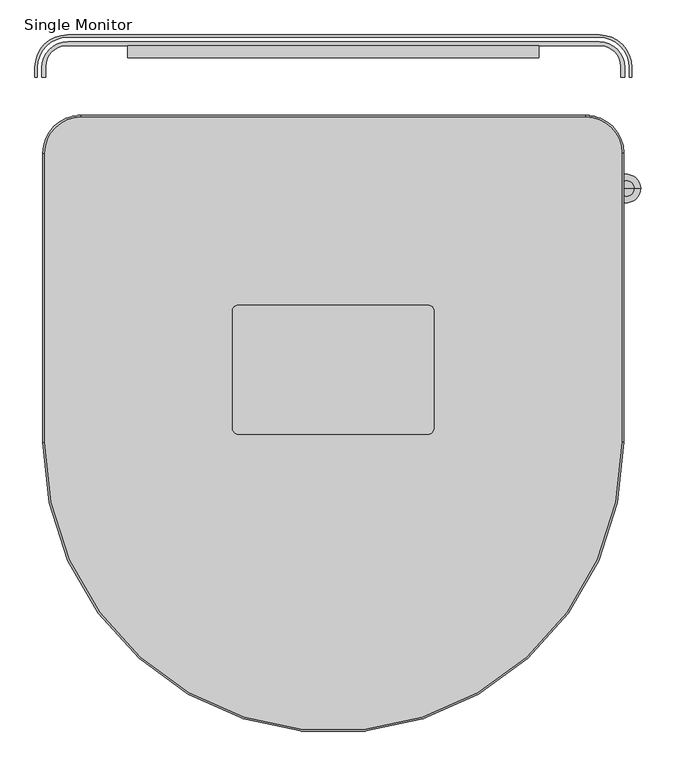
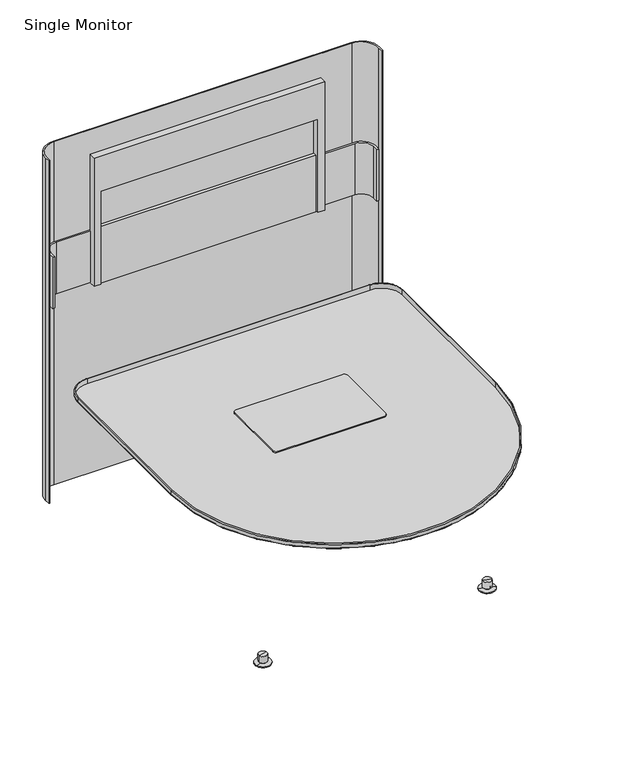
"""IFC4 building model written with IfcOpenShell, lengths in millimetres: furniture geometry, Steelcase - Media Scape - Table - Lounge Height - Small D Shape with Attached Totem : Single Monitor."""

from ifc_helpers import new_model, si_unit, point, frame, frame_2d, origin, place, context, project, spatial, polyline, circle_curve, ellipse_curve, trimmed, segment, composite_curve, outline, extrude, faceted_brep, source, transform, mapped, element, save
from ifc_brep_helpers import plane_surface, cylinder_surface, revolved_surface, spline_surface, advanced_brep


def single_monitor_e5c85c67(model_context):
    return source(origin(), model_context, "Body", "SolidModel", [
        advanced_brep(
        [(267.7091931, -257.5052223, 569.9023504), (347.0842173, -178.1301981, 569.9023504), (347.0842173, -181.3052223, 566.7273262), (270.8842173, -257.5052223, 566.7273262), (267.7091931, -257.5052223, 583.6183158), (347.0842173, -178.1301981, 583.6183158), (270.8842173, -257.5052223, 586.79334), (347.0842173, -181.3052223, 586.79334), (270.8842173, -863.6833531, 566.7273262), (267.7091931, -863.6833531, 569.9023504), (267.7091931, -863.6833531, 583.6183158), (270.8842173, -863.6833531, 586.79334), (1486.9090478, -863.6833531, 569.9023504), (1483.7340235, -863.6833531, 566.7273262), (1486.9090478, -863.6833531, 583.6183158), (1483.7340235, -863.6833531, 586.79334), (1483.7340235, -257.5052223, 566.7273262), (1486.9090478, -257.5052223, 569.9023504), (1486.9090478, -257.5052223, 583.6183158), (1483.7340235, -257.5052223, 586.79334), (1407.5340235, -178.1301981, 569.9023504), (1407.5340235, -181.3052223, 566.7273262), (1407.5340235, -178.1301981, 583.6183158), (1407.5340235, -181.3052223, 586.79334)],
        [
            (0, 1, circle_curve(frame((347.0842173, -257.5052223, 569.9023504), z_axis=(0.0, 0.0, -1.0), x_axis=(0.0, 1.0, 0.0)), 79.3750242)),
            (1, 2, circle_curve(frame((347.0842173, -181.3052223, 569.9023504), z_axis=(-1.0, 0.0, 0.0), x_axis=(0.0, -1.0, 0.0)), 3.1750242)),
            (2, 3, circle_curve(frame((347.0842173, -257.5052223, 566.7273262), z_axis=(0.0, 0.0, 1.0), x_axis=(0.0, 1.0, 0.0)), 76.2)),
            (3, 0, circle_curve(frame((270.8842173, -257.5052223, 569.9023504), z_axis=(0.0, 1.0, 0.0), x_axis=(1.0, 0.0, 0.0)), 3.1750242)),
            (4, 5, circle_curve(frame((347.0842173, -257.5052223, 583.6183158), z_axis=(0.0, 0.0, -1.0), x_axis=(0.0, 1.0, 0.0)), 79.3750242)),
            (5, 1),
            (0, 4),
            (6, 7, circle_curve(frame((347.0842173, -257.5052223, 586.79334), z_axis=(0.0, 0.0, -1.0), x_axis=(0.0, 1.0, 0.0)), 76.2)),
            (7, 5, circle_curve(frame((347.0842173, -181.3052223, 583.6183158), z_axis=(-1.0, 0.0, 0.0), x_axis=(0.0, -1.0, 0.0)), 3.1750242)),
            (4, 6, circle_curve(frame((270.8842173, -257.5052223, 583.6183158), z_axis=(0.0, 1.0, 0.0), x_axis=(1.0, 0.0, 0.0)), 3.1750242)),
            (2, 7),
            (6, 3),
            (3, 8),
            (8, 9, circle_curve(frame((270.8842173, -863.6833531, 569.9023504), z_axis=(0.0, 1.0, 0.0), x_axis=(1.0, 0.0, 0.0)), 3.1750242)),
            (9, 0),
            (9, 10),
            (10, 4),
            (10, 11, circle_curve(frame((270.8842173, -863.6833531, 583.6183158), z_axis=(0.0, 1.0, 0.0), x_axis=(1.0, 0.0, 0.0)), 3.1750242)),
            (11, 6),
            (11, 8),
            (12, 9, circle_curve(frame((877.3091204, -863.6833531, 569.9023504), z_axis=(0.0, 0.0, -1.0), x_axis=(-1.0, 0.0, 0.0)), 609.5999273)),
            (8, 13, circle_curve(frame((877.3091204, -863.6833531, 566.7273262), z_axis=(0.0, 0.0, 1.0), x_axis=(-1.0, 0.0, 0.0)), 606.4249031)),
            (13, 12, circle_curve(frame((1483.7340235, -863.6833531, 569.9023504), z_axis=(0.0, -1.0, 0.0), x_axis=(-1.0, 0.0, 0.0)), 3.1750242)),
            (14, 10, circle_curve(frame((877.3091204, -863.6833531, 583.6183158), z_axis=(0.0, 0.0, -1.0), x_axis=(-1.0, 0.0, 0.0)), 609.5999273)),
            (12, 14),
            (15, 11, circle_curve(frame((877.3091204, -863.6833531, 586.79334), z_axis=(0.0, 0.0, -1.0), x_axis=(-1.0, 0.0, 0.0)), 606.4249031)),
            (14, 15, circle_curve(frame((1483.7340235, -863.6833531, 583.6183158), z_axis=(0.0, -1.0, 0.0), x_axis=(-1.0, 0.0, 0.0)), 3.1750242)),
            (15, 13),
            (13, 16),
            (16, 17, circle_curve(frame((1483.7340235, -257.5052223, 569.9023504), z_axis=(0.0, -1.0, 0.0), x_axis=(-1.0, 0.0, 0.0)), 3.1750242)),
            (17, 12),
            (17, 18),
            (18, 14),
            (18, 19, circle_curve(frame((1483.7340235, -257.5052223, 583.6183158), z_axis=(0.0, -1.0, 0.0), x_axis=(-1.0, 0.0, 0.0)), 3.1750242)),
            (19, 15),
            (19, 16),
            (20, 17, circle_curve(frame((1407.5340235, -257.5052223, 569.9023504), z_axis=(0.0, 0.0, -1.0), x_axis=(1.0, 0.0, 0.0)), 79.3750242)),
            (16, 21, circle_curve(frame((1407.5340235, -257.5052223, 566.7273262), z_axis=(0.0, 0.0, 1.0), x_axis=(1.0, 0.0, 0.0)), 76.2)),
            (21, 20, circle_curve(frame((1407.5340235, -181.3052223, 569.9023504), z_axis=(1.0, 0.0, 0.0), x_axis=(0.0, -1.0, 0.0)), 3.1750242)),
            (22, 18, circle_curve(frame((1407.5340235, -257.5052223, 583.6183158), z_axis=(0.0, 0.0, -1.0), x_axis=(1.0, 0.0, 0.0)), 79.3750242)),
            (20, 22),
            (23, 19, circle_curve(frame((1407.5340235, -257.5052223, 586.79334), z_axis=(0.0, 0.0, -1.0), x_axis=(1.0, 0.0, 0.0)), 76.2)),
            (22, 23, circle_curve(frame((1407.5340235, -181.3052223, 583.6183158), z_axis=(1.0, 0.0, 0.0), x_axis=(0.0, -1.0, 0.0)), 3.1750242)),
            (23, 21),
            (21, 2),
            (1, 20),
            (5, 22),
            (7, 23),
        ],
        [
            revolved_surface(trimmed(ellipse_curve(frame((347.0842173, -181.3052223, 569.9023504), z_axis=(1.0, 0.0, 0.0), x_axis=(0.0, -1.0, 0.0)), 3.1750242, 3.1750242), [point((347.0842173, -181.3052223, 566.7273262))], [point((347.0842173, -178.1301981, 569.9023504))], True, "CARTESIAN"), (347.0842173, -257.5052223, 0.0), (0.0, 0.0, 1.0)),
            cylinder_surface(frame((347.0842173, -257.5052223, 0.0), z_axis=(0.0, 0.0, 1.0), x_axis=(0.0, 1.0, 0.0)), 79.3750242),
            revolved_surface(trimmed(ellipse_curve(frame((347.0842173, -181.3052223, 583.6183158), z_axis=(1.0, 0.0, 0.0), x_axis=(0.0, -1.0, 0.0)), 3.1750242, 3.1750242), [point((347.0842173, -178.1301981, 583.6183158))], [point((347.0842173, -181.3052223, 586.79334))], True, "CARTESIAN"), (347.0842173, -257.5052223, 0.0), (0.0, 0.0, 1.0)),
            revolved_surface(polyline([(347.0842173, -181.30522230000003, 586.79334), (347.0842173, -181.30522230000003, 566.7273262)]), (347.0842173, -257.5052223, 0.0), (0.0, 0.0, 1.0)),
            cylinder_surface(frame((270.8842173, -257.5052223, 569.9023504), z_axis=(0.0, 1.0, 0.0), x_axis=(1.0, 0.0, 0.0)), 3.1750242),
            plane_surface(frame((267.7091931, -257.5052223, 569.9023504), z_axis=(-1.0, 0.0, 0.0), x_axis=(0.0, -1.0, 0.0))),
            cylinder_surface(frame((270.8842173, -257.5052223, 583.6183158), z_axis=(0.0, 1.0, 0.0), x_axis=(1.0, 0.0, 0.0)), 3.1750242),
            plane_surface(frame((270.8842173, -257.5052223, 586.79334), z_axis=(1.0, 0.0, 0.0), x_axis=(0.0, -1.0, 0.0))),
            revolved_surface(trimmed(ellipse_curve(frame((270.8842173, -863.6833531, 569.9023504), z_axis=(0.0, 1.0, 0.0), x_axis=(1.0, 0.0, 0.0)), 3.1750242, 3.1750242), [point((270.8842173, -863.6833531, 566.7273262))], [point((267.7091931, -863.6833531, 569.9023504))], True, "CARTESIAN"), (877.3091204, -863.6833531, 0.0), (0.0, 0.0, 1.0)),
            cylinder_surface(frame((877.3091204, -863.6833531, 0.0), z_axis=(0.0, 0.0, 1.0), x_axis=(-1.0, 0.0, 0.0)), 609.5999273),
            revolved_surface(trimmed(ellipse_curve(frame((270.8842173, -863.6833531, 583.6183158), z_axis=(0.0, 1.0, 0.0), x_axis=(1.0, 0.0, 0.0)), 3.1750242, 3.1750242), [point((267.7091931, -863.6833531, 583.6183158))], [point((270.8842173, -863.6833531, 586.79334))], True, "CARTESIAN"), (877.3091204, -863.6833531, 0.0), (0.0, 0.0, 1.0)),
            revolved_surface(polyline([(270.88421729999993, -863.6833531, 586.79334), (270.88421729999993, -863.6833531, 566.7273262)]), (877.3091204, -863.6833531, 0.0), (0.0, 0.0, 1.0)),
            cylinder_surface(frame((1483.7340235, -863.6833531, 569.9023504), z_axis=(0.0, -1.0, 0.0), x_axis=(-1.0, 0.0, 0.0)), 3.1750242),
            plane_surface(frame((1486.9090478, -863.6833531, 569.9023504), z_axis=(1.0, 0.0, 0.0), x_axis=(0.0, 1.0, 0.0))),
            cylinder_surface(frame((1483.7340235, -863.6833531, 583.6183158), z_axis=(0.0, -1.0, 0.0), x_axis=(-1.0, 0.0, 0.0)), 3.1750242),
            plane_surface(frame((1483.7340235, -863.6833531, 586.79334), z_axis=(-1.0, 0.0, 0.0), x_axis=(0.0, 1.0, 0.0))),
            revolved_surface(trimmed(ellipse_curve(frame((1483.7340235, -257.5052223, 569.9023504), z_axis=(0.0, -1.0, 0.0), x_axis=(-1.0, 0.0, 0.0)), 3.1750242, 3.1750242), [point((1483.7340235, -257.5052223, 566.7273262))], [point((1486.9090478, -257.5052223, 569.9023504))], True, "CARTESIAN"), (1407.5340235, -257.5052223, 0.0), (0.0, 0.0, 1.0)),
            cylinder_surface(frame((1407.5340235, -257.5052223, 0.0), z_axis=(0.0, 0.0, 1.0), x_axis=(1.0, 0.0, 0.0)), 79.3750242),
            revolved_surface(trimmed(ellipse_curve(frame((1483.7340235, -257.5052223, 583.6183158), z_axis=(0.0, -1.0, 0.0), x_axis=(-1.0, 0.0, 0.0)), 3.1750242, 3.1750242), [point((1486.9090478, -257.5052223, 583.6183158))], [point((1483.7340235, -257.5052223, 586.79334))], True, "CARTESIAN"), (1407.5340235, -257.5052223, 0.0), (0.0, 0.0, 1.0)),
            revolved_surface(polyline([(1483.7340235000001, -257.5052223, 586.79334), (1483.7340235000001, -257.5052223, 566.7273262)]), (1407.5340235, -257.5052223, 0.0), (0.0, 0.0, 1.0)),
            cylinder_surface(frame((1407.5340235, -181.3052223, 569.9023504), z_axis=(1.0, 0.0, 0.0), x_axis=(0.0, -1.0, 0.0)), 3.1750242),
            plane_surface(frame((1407.5340235, -178.1301981, 569.9023504), z_axis=(0.0, 1.0, 0.0), x_axis=(-1.0, 0.0, 0.0))),
            cylinder_surface(frame((1407.5340235, -181.3052223, 583.6183158), z_axis=(1.0, 0.0, 0.0), x_axis=(0.0, -1.0, 0.0)), 3.1750242),
            plane_surface(frame((1407.5340235, -181.3052223, 586.79334), z_axis=(0.0, -1.0, 0.0), x_axis=(-1.0, 0.0, 0.0))),
        ],
        [
            (0, [[1, 2, 3, 4]]),
            (1, [[5, 6, -1, 7]]),
            (2, [[8, 9, -5, 10]]),
            (3, [[-3, 11, -8, 12]]),
            (4, [[-4, 13, 14, 15]]),
            (5, [[-7, -15, 16, 17]]),
            (6, [[-10, -17, 18, 19]]),
            (7, [[-12, -19, 20, -13]]),
            (8, [[21, -14, 22, 23]]),
            (9, [[24, -16, -21, 25]]),
            (10, [[26, -18, -24, 27]]),
            (11, [[-22, -20, -26, 28]]),
            (12, [[-23, 29, 30, 31]]),
            (13, [[-25, -31, 32, 33]]),
            (14, [[-27, -33, 34, 35]]),
            (15, [[-28, -35, 36, -29]]),
            (16, [[37, -30, 38, 39]]),
            (17, [[40, -32, -37, 41]]),
            (18, [[42, -34, -40, 43]]),
            (19, [[-38, -36, -42, 44]]),
            (20, [[-39, 45, -2, 46]]),
            (21, [[-41, -46, -6, 47]]),
            (22, [[-43, -47, -9, 48]]),
            (23, [[-44, -48, -11, -45]]),
        ],
    ),
        advanced_brep(
        [(347.3175364, -245.0384687, 557.20234), (1407.3007044, -245.0384687, 557.20234), (1420.0007044, -257.7384687, 557.20234), (1420.0007044, -864.5887133, 557.20234), (334.6175364, -864.5887133, 557.20234), (334.6175364, -257.7384687, 557.20234), (347.0842173, -181.3052223, 566.7273262), (270.8842173, -257.5052223, 566.7273262), (270.8842173, -863.6833531, 566.7273262), (1483.7340235, -863.6833531, 566.7273262), (1483.7340235, -257.5052223, 566.7273262), (1407.5340235, -181.3052223, 566.7273262)],
        [
            (0, 1),
            (1, 2, circle_curve(frame((1407.3007044, -257.7384687, 557.20234), z_axis=(0.0, 0.0, -1.0), x_axis=(1.0, 0.0, 0.0)), 12.7)),
            (2, 3),
            (3, 4, circle_curve(frame((877.3091204, -864.5887133, 557.20234), z_axis=(0.0, 0.0, -1.0), x_axis=(1.0, 0.0, 0.0)), 542.691584)),
            (4, 5),
            (5, 0, circle_curve(frame((347.3175364, -257.7384687, 557.20234), z_axis=(0.0, 0.0, -1.0), x_axis=(1.0, 0.0, 0.0)), 12.7)),
            (6, 7, circle_curve(frame((347.0842173, -257.5052223, 566.7273262), z_axis=(0.0, 0.0, 1.0), x_axis=(1.0, 0.0, 0.0)), 76.2)),
            (7, 8),
            (8, 9, circle_curve(frame((877.3091204, -863.6833531, 566.7273262), z_axis=(0.0, 0.0, 1.0), x_axis=(1.0, 0.0, 0.0)), 606.4249031)),
            (9, 10),
            (10, 11, circle_curve(frame((1407.5340235, -257.5052223, 566.7273262), z_axis=(0.0, 0.0, 1.0), x_axis=(1.0, 0.0, 0.0)), 76.2)),
            (11, 6),
            (11, 1),
            (0, 6),
            (10, 2),
            (9, 3),
            (8, 4),
            (7, 5),
        ],
        [
            plane_surface(frame((877.3091204, -455.7885502, 557.20234), z_axis=(0.0, 0.0, -1.0), x_axis=(-1.0, 0.0, 0.0))),
            plane_surface(frame((877.3091204, -434.1645992, 566.7273262), z_axis=(0.0, 0.0, 1.0), x_axis=(-1.0, 0.0, 0.0))),
            plane_surface(frame((877.3091204, -181.3052223, 566.7273262), z_axis=(0.0, 0.14780923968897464, -0.9890158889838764), x_axis=(1.0, 0.0, 0.0))),
            spline_surface(2, 1, [[(1407.5340235, -181.3052223, 566.7273262), (1407.3007044, -245.0384687, 557.20234)], [(1483.7340235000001, -181.3052222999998, 566.7273262), (1420.0007044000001, -245.03846869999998, 557.20234)], [(1483.7340235, -257.5052223, 566.7273262), (1420.0007044, -257.7384687, 557.20234)]], [3, 3], [2, 2], [0.0, 1.0], [0.0, 1.0], weights=[[1.0, 1.0], [0.7071067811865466, 0.7071067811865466], [1.0, 1.0]]),
            plane_surface(frame((1483.7340235, -560.5942877, 566.7273262), z_axis=(0.14780907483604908, 0.0, -0.989015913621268), x_axis=(0.0, -1.0, 0.0))),
            spline_surface(2, 1, [[(1483.7340235, -863.6833531, 566.7273262), (1420.0007044, -864.5887133, 557.20234)], [(1483.7340235, -1470.1082562, 566.7273262), (1420.0007044, -1407.2802972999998, 557.20234)], [(877.3091204, -1470.1082562, 566.7273262), (877.3091204, -1407.2802972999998, 557.20234)], [(270.88421730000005, -1470.1082562, 566.7273262), (334.61753640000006, -1407.2802972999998, 557.20234)], [(270.8842173, -863.6833531, 566.7273262), (334.6175364, -864.5887133, 557.20234)]], [3, 2, 3], [2, 2], [0.0, 1.0, 2.0], [0.0, 1.0], weights=[[1.0, 1.0], [0.7071067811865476, 0.7071067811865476], [1.0, 1.0], [0.7071067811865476, 0.7071067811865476], [1.0, 1.0]]),
            plane_surface(frame((270.8842173, -560.5942877, 566.7273262), z_axis=(-0.14780907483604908, 0.0, -0.989015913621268), x_axis=(0.0, 1.0, 0.0))),
            spline_surface(2, 1, [[(270.8842173, -257.5052223, 566.7273262), (334.6175364, -257.7384687, 557.20234)], [(270.8842173, -181.30522230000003, 566.7273262), (334.6175364, -245.0384687, 557.20234)], [(347.0842173, -181.3052223, 566.7273262), (347.3175364, -245.0384687, 557.20234)]], [3, 3], [2, 2], [0.0, 1.0], [0.0, 1.0], weights=[[1.0, 1.0], [0.7071067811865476, 0.7071067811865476], [1.0, 1.0]]),
        ],
        [
            (0, [[1, 2, 3, 4, 5, 6]]),
            (1, [[7, 8, 9, 10, 11, 12]]),
            (2, [[-12, 13, -1, 14]]),
            (3, [[-11, 15, -2, -13]]),
            (4, [[-10, 16, -3, -15]]),
            (5, [[-9, 17, -4, -16]]),
            (6, [[-8, 18, -5, -17]]),
            (7, [[-7, -14, -6, -18]]),
        ],
    ),
        extrude(outline(composite_curve([segment(trimmed(circle_curve(frame_2d((1075.9751918, -588.6576593)), 12.7), [point((1075.9751918, -575.9576593))], [point((1088.6751918, -588.6576593))], False, "CARTESIAN"), True, "CONTINUOUS"), segment(polyline([(1088.6751918, -588.6576593), (1088.6751918, -833.8946767)]), True, "CONTINUOUS"), segment(trimmed(circle_curve(frame_2d((1075.9751918, -833.8946767)), 12.7), [point((1088.6751918, -833.8946767))], [point((1075.9751918, -846.5946767))], False, "CARTESIAN"), True, "CONTINUOUS"), segment(polyline([(1075.9751918, -846.5946767), (678.1351344, -846.5946767)]), True, "CONTINUOUS"), segment(trimmed(circle_curve(frame_2d((678.1351344, -833.8946767)), 12.7), [point((678.1351344, -846.5946767))], [point((665.4351344, -833.8946767))], False, "CARTESIAN"), True, "CONTINUOUS"), segment(polyline([(665.4351344, -833.8946767), (665.4351344, -588.6576593)]), True, "CONTINUOUS"), segment(trimmed(circle_curve(frame_2d((678.1351344, -588.6576593)), 12.7), [point((665.4351344, -588.6576593))], [point((678.1351344, -575.9576593))], False, "CARTESIAN"), True, "CONTINUOUS"), segment(polyline([(678.1351344, -575.9576593), (1075.9751918, -575.9576593)]), True, "CONTINUOUS")], self_intersect=False)), frame((0.0, 0.0, 582.72934), z_axis=(0.0, 0.0, 1.0), x_axis=(1.0, 0.0, 0.0)), (0.0, 0.0, 1.0), 4.064),
        advanced_brep(
        [(485.6789396, -1123.2966322, 3.2766), (428.7557416, -1140.2672064, 3.2766), (428.7557416, -1140.2672064, 0.0), (485.6789396, -1123.2966322, 0.0), (467.8033176, -1128.6259106, 3.2766), (446.6313636, -1134.937928, 3.2766), (467.8033176, -1128.6259106, 9.1059), (446.6313636, -1134.937928, 9.1059), (472.5052285, -1127.2241248, 9.1059), (441.9294527, -1136.3397137, 9.1059), (472.5052285, -1127.2241248, 34.5059), (441.9294527, -1136.3397137, 34.5059), (457.2173406, -1131.7819193, 34.5059), (457.2173406, -1131.7819193, 0.0)],
        [
            (0, 1, circle_curve(frame((457.2173406, -1131.7819193, 3.2766), z_axis=(0.0, 0.0, -1.0), x_axis=(-0.9583178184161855, -0.28570432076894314, 0.0)), 29.6995407)),
            (1, 2),
            (2, 3, circle_curve(frame((457.2173406, -1131.7819193, 0.0), z_axis=(0.0, 0.0, 1.0), x_axis=(-0.9583178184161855, -0.28570432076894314, 0.0)), 29.6995407)),
            (3, 0),
            (1, 0, circle_curve(frame((457.2173406, -1131.7819193, 3.2766), z_axis=(0.0, 0.0, -1.0), x_axis=(-0.9583178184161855, -0.28570432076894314, 0.0)), 29.6995407)),
            (3, 2, circle_curve(frame((457.2173406, -1131.7819193, 0.0), z_axis=(0.0, 0.0, 1.0), x_axis=(-0.9583178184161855, -0.28570432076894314, 0.0)), 29.6995407)),
            (4, 5, circle_curve(frame((457.2173406, -1131.7819193, 3.2766), z_axis=(0.0, 0.0, -1.0), x_axis=(-0.9583178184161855, -0.28570432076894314, 0.0)), 11.0464157)),
            (5, 1),
            (0, 4),
            (5, 4, circle_curve(frame((457.2173406, -1131.7819193, 3.2766), z_axis=(0.0, 0.0, -1.0), x_axis=(-0.9583178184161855, -0.28570432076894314, 0.0)), 11.0464157)),
            (6, 7, circle_curve(frame((457.2173406, -1131.7819193, 9.1059), z_axis=(0.0, 0.0, -1.0), x_axis=(-0.9583178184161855, -0.28570432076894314, 0.0)), 11.0464157)),
            (7, 5),
            (4, 6),
            (7, 6, circle_curve(frame((457.2173406, -1131.7819193, 9.1059), z_axis=(0.0, 0.0, -1.0), x_axis=(-0.9583178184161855, -0.28570432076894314, 0.0)), 11.0464157)),
            (8, 9, circle_curve(frame((457.2173406, -1131.7819193, 9.1059), z_axis=(0.0, 0.0, -1.0), x_axis=(-0.9583178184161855, -0.28570432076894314, 0.0)), 15.9528369)),
            (9, 7),
            (6, 8),
            (9, 8, circle_curve(frame((457.2173406, -1131.7819193, 9.1059), z_axis=(0.0, 0.0, -1.0), x_axis=(-0.9583178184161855, -0.28570432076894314, 0.0)), 15.9528369)),
            (10, 11, circle_curve(frame((457.2173406, -1131.7819193, 34.5059), z_axis=(0.0, 0.0, -1.0), x_axis=(-0.9583178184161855, -0.28570432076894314, 0.0)), 15.9528369)),
            (11, 9),
            (8, 10),
            (11, 10, circle_curve(frame((457.2173406, -1131.7819193, 34.5059), z_axis=(0.0, 0.0, -1.0), x_axis=(-0.9583178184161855, -0.28570432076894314, 0.0)), 15.9528369)),
            (12, 11),
            (10, 12),
            (2, 13),
            (13, 3),
        ],
        [
            cylinder_surface(frame((457.2173406, -1131.7819193, 9.1059), z_axis=(0.0, 0.0, 1.0), x_axis=(-0.9583178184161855, -0.28570432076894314, 0.0)), 29.6995407),
            plane_surface(frame((457.2173406, -1131.7819193, 3.2766), z_axis=(0.0, 0.0, 1.0000000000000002), x_axis=(-0.9583178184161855, -0.28570432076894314, 0.0))),
            cylinder_surface(frame((457.2173406, -1131.7819193, 9.1059), z_axis=(0.0, 0.0, 1.0), x_axis=(-0.9583178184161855, -0.28570432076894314, 0.0)), 11.0464157),
            plane_surface(frame((457.2173406, -1131.7819193, 9.1059), z_axis=(0.0, 0.0, -1.0000000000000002), x_axis=(-0.9583178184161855, -0.28570432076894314, 0.0))),
            cylinder_surface(frame((457.2173406, -1131.7819193, 9.1059), z_axis=(0.0, 0.0, 1.0), x_axis=(-0.9583178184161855, -0.28570432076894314, 0.0)), 15.9528369),
            plane_surface(frame((457.2173406, -1131.7819193, 34.5059), z_axis=(0.0, 0.0, 1.0000000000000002), x_axis=(-0.9583178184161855, -0.28570432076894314, 0.0))),
            plane_surface(frame((457.2173406, -1131.7819193, 0.0), z_axis=(0.0, 0.0, -1.0000000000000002), x_axis=(-0.9583178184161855, -0.28570432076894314, 0.0))),
        ],
        [
            (0, [[1, 2, 3, 4]]),
            (0, [[5, -4, 6, -2]]),
            (1, [[7, 8, -1, 9]]),
            (1, [[10, -9, -5, -8]]),
            (2, [[11, 12, -7, 13]]),
            (2, [[14, -13, -10, -12]]),
            (3, [[15, 16, -11, 17]]),
            (3, [[18, -17, -14, -16]]),
            (4, [[19, 20, -15, 21]]),
            (4, [[22, -21, -18, -20]]),
            (5, [[23, -19, 24]]),
            (5, [[-24, -22, -23]]),
            (6, [[-3, 25, 26]]),
            (6, [[-6, -26, -25]]),
        ],
    ),
        advanced_brep(
        [(1297.4008909, -1131.7819193, 0.0), (1325.8624899, -1140.2672064, 0.0), (1268.9392919, -1123.2966322, 0.0), (1282.113003, -1127.2241248, 34.5059), (1312.6887788, -1136.3397137, 34.5059), (1297.4008909, -1131.7819193, 34.5059), (1282.113003, -1127.2241248, 9.1059), (1312.6887788, -1136.3397137, 9.1059), (1286.8149139, -1128.6259106, 9.1059), (1307.9868679, -1134.937928, 9.1059), (1286.8149139, -1128.6259106, 3.2766), (1307.9868679, -1134.937928, 3.2766), (1268.9392919, -1123.2966322, 3.2766), (1325.8624899, -1140.2672064, 3.2766)],
        [
            (0, 1),
            (1, 2, circle_curve(frame((1297.4008909, -1131.7819193, 0.0), z_axis=(0.0, 0.0, -1.0), x_axis=(0.9583178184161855, -0.28570432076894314, 0.0)), 29.6995407)),
            (2, 0),
            (2, 1, circle_curve(frame((1297.4008909, -1131.7819193, 0.0), z_axis=(0.0, 0.0, -1.0), x_axis=(0.9583178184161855, -0.28570432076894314, 0.0)), 29.6995407)),
            (3, 4, circle_curve(frame((1297.4008909, -1131.7819193, 34.5059), z_axis=(0.0, 0.0, 1.0), x_axis=(0.9583178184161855, -0.28570432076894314, 0.0)), 15.9528369)),
            (4, 5),
            (5, 3),
            (4, 3, circle_curve(frame((1297.4008909, -1131.7819193, 34.5059), z_axis=(0.0, 0.0, 1.0), x_axis=(0.9583178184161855, -0.28570432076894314, 0.0)), 15.9528369)),
            (6, 7, circle_curve(frame((1297.4008909, -1131.7819193, 9.1059), z_axis=(0.0, 0.0, 1.0), x_axis=(0.9583178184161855, -0.28570432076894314, 0.0)), 15.9528369)),
            (7, 4),
            (3, 6),
            (7, 6, circle_curve(frame((1297.4008909, -1131.7819193, 9.1059), z_axis=(0.0, 0.0, 1.0), x_axis=(0.9583178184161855, -0.28570432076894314, 0.0)), 15.9528369)),
            (8, 9, circle_curve(frame((1297.4008909, -1131.7819193, 9.1059), z_axis=(0.0, 0.0, 1.0), x_axis=(0.9583178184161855, -0.28570432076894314, 0.0)), 11.0464157)),
            (9, 7),
            (6, 8),
            (9, 8, circle_curve(frame((1297.4008909, -1131.7819193, 9.1059), z_axis=(0.0, 0.0, 1.0), x_axis=(0.9583178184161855, -0.28570432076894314, 0.0)), 11.0464157)),
            (10, 11, circle_curve(frame((1297.4008909, -1131.7819193, 3.2766), z_axis=(0.0, 0.0, 1.0), x_axis=(0.9583178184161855, -0.28570432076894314, 0.0)), 11.0464157)),
            (11, 9),
            (8, 10),
            (11, 10, circle_curve(frame((1297.4008909, -1131.7819193, 3.2766), z_axis=(0.0, 0.0, 1.0), x_axis=(0.9583178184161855, -0.28570432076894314, 0.0)), 11.0464157)),
            (12, 13, circle_curve(frame((1297.4008909, -1131.7819193, 3.2766), z_axis=(0.0, 0.0, 1.0), x_axis=(0.9583178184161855, -0.28570432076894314, 0.0)), 29.6995407)),
            (13, 11),
            (10, 12),
            (13, 12, circle_curve(frame((1297.4008909, -1131.7819193, 3.2766), z_axis=(0.0, 0.0, 1.0), x_axis=(0.9583178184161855, -0.28570432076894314, 0.0)), 29.6995407)),
            (1, 13),
            (12, 2),
        ],
        [
            plane_surface(frame((1297.4008909, -1131.7819193, 0.0), z_axis=(0.0, 0.0, -1.0000000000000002), x_axis=(0.9583178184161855, -0.28570432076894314, 0.0))),
            plane_surface(frame((1297.4008909, -1131.7819193, 34.5059), z_axis=(0.0, 0.0, 1.0000000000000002), x_axis=(0.9583178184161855, -0.28570432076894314, 0.0))),
            cylinder_surface(frame((1297.4008909, -1131.7819193, 9.1059), z_axis=(0.0, 0.0, -1.0), x_axis=(0.9583178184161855, -0.28570432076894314, 0.0)), 15.9528369),
            plane_surface(frame((1297.4008909, -1131.7819193, 9.1059), z_axis=(0.0, 0.0, -1.0000000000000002), x_axis=(0.9583178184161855, -0.28570432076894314, 0.0))),
            cylinder_surface(frame((1297.4008909, -1131.7819193, 9.1059), z_axis=(0.0, 0.0, -1.0), x_axis=(0.9583178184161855, -0.28570432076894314, 0.0)), 11.0464157),
            plane_surface(frame((1297.4008909, -1131.7819193, 3.2766), z_axis=(0.0, 0.0, 1.0000000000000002), x_axis=(0.9583178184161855, -0.28570432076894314, 0.0))),
            cylinder_surface(frame((1297.4008909, -1131.7819193, 9.1059), z_axis=(0.0, 0.0, -1.0), x_axis=(0.9583178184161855, -0.28570432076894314, 0.0)), 29.6995407),
        ],
        [
            (0, [[1, 2, 3]]),
            (0, [[-3, 4, -1]]),
            (1, [[5, 6, 7]]),
            (1, [[8, -7, -6]]),
            (2, [[9, 10, -5, 11]]),
            (2, [[12, -11, -8, -10]]),
            (3, [[13, 14, -9, 15]]),
            (3, [[16, -15, -12, -14]]),
            (4, [[17, 18, -13, 19]]),
            (4, [[20, -19, -16, -18]]),
            (5, [[21, 22, -17, 23]]),
            (5, [[24, -23, -20, -22]]),
            (6, [[-2, 25, -21, 26]]),
            (6, [[-4, -26, -24, -25]]),
        ],
    ),
        advanced_brep(
        [(1462.7661204, -331.3137623, 3.2766), (1522.1652018, -331.3137623, 3.2766), (1522.1652018, -331.3137623, 0.0), (1462.7661204, -331.3137623, 0.0), (1481.4192454, -331.3137623, 3.2766), (1503.5120768, -331.3137623, 3.2766), (1481.4192454, -331.3137623, 9.1059), (1503.5120768, -331.3137623, 9.1059), (1476.5128242, -331.3137623, 9.1059), (1508.418498, -331.3137623, 9.1059), (1476.5128242, -331.3137623, 34.5059), (1508.418498, -331.3137623, 34.5059), (1492.4656611, -331.3137623, 34.5059), (1492.4656611, -331.3137623, 0.0)],
        [
            (0, 1, circle_curve(frame((1492.4656611, -331.3137623, 3.2766), z_axis=(0.0, 0.0, -1.0), x_axis=(1.0, 0.0, 0.0)), 29.6995407)),
            (1, 2),
            (2, 3, circle_curve(frame((1492.4656611, -331.3137623, 0.0), z_axis=(0.0, 0.0, 1.0), x_axis=(1.0, 0.0, 0.0)), 29.6995407)),
            (3, 0),
            (1, 0, circle_curve(frame((1492.4656611, -331.3137623, 3.2766), z_axis=(0.0, 0.0, -1.0), x_axis=(1.0, 0.0, 0.0)), 29.6995407)),
            (3, 2, circle_curve(frame((1492.4656611, -331.3137623, 0.0), z_axis=(0.0, 0.0, 1.0), x_axis=(1.0, 0.0, 0.0)), 29.6995407)),
            (4, 5, circle_curve(frame((1492.4656611, -331.3137623, 3.2766), z_axis=(0.0, 0.0, -1.0), x_axis=(1.0, 0.0, 0.0)), 11.0464157)),
            (5, 1),
            (0, 4),
            (5, 4, circle_curve(frame((1492.4656611, -331.3137623, 3.2766), z_axis=(0.0, 0.0, -1.0), x_axis=(1.0, 0.0, 0.0)), 11.0464157)),
            (6, 7, circle_curve(frame((1492.4656611, -331.3137623, 9.1059), z_axis=(0.0, 0.0, -1.0), x_axis=(1.0, 0.0, 0.0)), 11.0464157)),
            (7, 5),
            (4, 6),
            (7, 6, circle_curve(frame((1492.4656611, -331.3137623, 9.1059), z_axis=(0.0, 0.0, -1.0), x_axis=(1.0, 0.0, 0.0)), 11.0464157)),
            (8, 9, circle_curve(frame((1492.4656611, -331.3137623, 9.1059), z_axis=(0.0, 0.0, -1.0), x_axis=(1.0, 0.0, 0.0)), 15.9528369)),
            (9, 7),
            (6, 8),
            (9, 8, circle_curve(frame((1492.4656611, -331.3137623, 9.1059), z_axis=(0.0, 0.0, -1.0), x_axis=(1.0, 0.0, 0.0)), 15.9528369)),
            (10, 11, circle_curve(frame((1492.4656611, -331.3137623, 34.5059), z_axis=(0.0, 0.0, -1.0), x_axis=(1.0, 0.0, 0.0)), 15.9528369)),
            (11, 9),
            (8, 10),
            (11, 10, circle_curve(frame((1492.4656611, -331.3137623, 34.5059), z_axis=(0.0, 0.0, -1.0), x_axis=(1.0, 0.0, 0.0)), 15.9528369)),
            (12, 11),
            (10, 12),
            (2, 13),
            (13, 3),
        ],
        [
            cylinder_surface(frame((1492.4656611, -331.3137623, 9.1059), z_axis=(0.0, 0.0, 1.0), x_axis=(1.0, 0.0, 0.0)), 29.6995407),
            plane_surface(frame((1492.4656611, -331.3137623, 3.2766), z_axis=(0.0, 0.0, 1.0), x_axis=(1.0, 0.0, 0.0))),
            cylinder_surface(frame((1492.4656611, -331.3137623, 9.1059), z_axis=(0.0, 0.0, 1.0), x_axis=(1.0, 0.0, 0.0)), 11.0464157),
            plane_surface(frame((1492.4656611, -331.3137623, 9.1059), z_axis=(0.0, 0.0, -1.0), x_axis=(1.0, 0.0, 0.0))),
            cylinder_surface(frame((1492.4656611, -331.3137623, 9.1059), z_axis=(0.0, 0.0, 1.0), x_axis=(1.0, 0.0, 0.0)), 15.9528369),
            plane_surface(frame((1492.4656611, -331.3137623, 34.5059), z_axis=(0.0, 0.0, 1.0), x_axis=(1.0, 0.0, 0.0))),
            plane_surface(frame((1492.4656611, -331.3137623, 0.0), z_axis=(0.0, 0.0, -1.0), x_axis=(1.0, 0.0, 0.0))),
        ],
        [
            (0, [[1, 2, 3, 4]]),
            (0, [[5, -4, 6, -2]]),
            (1, [[7, 8, -1, 9]]),
            (1, [[10, -9, -5, -8]]),
            (2, [[11, 12, -7, 13]]),
            (2, [[14, -13, -10, -12]]),
            (3, [[15, 16, -11, 17]]),
            (3, [[18, -17, -14, -16]]),
            (4, [[19, 20, -15, 21]]),
            (4, [[22, -21, -18, -20]]),
            (5, [[23, -19, 24]]),
            (5, [[-24, -22, -23]]),
            (6, [[-3, 25, 26]]),
            (6, [[-6, -26, -25]]),
        ],
    ),
        faceted_brep([(974.6418421, -612.9147058, 352.68662), (974.6418421, -810.1456903, 352.68662), (779.9763987, -810.1456903, 352.68662), (779.9763987, -612.9147058, 352.68662), (1321.8090235, -267.0302223, 557.20234), (432.8092173, -267.0302223, 557.20234), (432.8092173, -1156.0302465, 557.20234), (1321.8090235, -1156.0302465, 557.20234)], [[[0, 1, 2, 3]], [[4, 5, 6, 7]], [[4, 7, 1, 0]], [[7, 6, 2, 1]], [[6, 5, 3, 2]], [[5, 4, 0, 3]]]),
        extrude(outline(composite_curve([segment(trimmed(circle_curve(frame_2d((1435.112425, -77.4940467)), 53.5875745), [point((1435.112425, -23.9064722))], [point((1488.6999995, -77.4940467))], False, "CARTESIAN"), True, "CONTINUOUS"), segment(polyline([(1488.6999995, -77.4940467), (1488.6999995, -98.4376787), (1480.7572357, -98.4376787), (1480.7572357, -76.2)]), True, "CONTINUOUS"), segment(trimmed(circle_curve(frame_2d((1436.3072357, -76.2)), 44.45), [point((1480.7572357, -76.2))], [point((1436.3072357, -31.75))], True, "CARTESIAN"), True, "CONTINUOUS"), segment(polyline([(1436.3072357, -31.75), (318.3109957, -31.75)]), True, "CONTINUOUS"), segment(trimmed(circle_curve(frame_2d((318.3109957, -76.2)), 44.45), [point((318.3109957, -31.75))], [point((273.8609957, -76.2))], True, "CARTESIAN"), True, "CONTINUOUS"), segment(polyline([(273.8609957, -76.2), (273.8609957, -98.4376787), (265.9182414, -98.4376787), (265.9182414, -77.9390932)]), True, "CONTINUOUS"), segment(trimmed(circle_curve(frame_2d((319.9508624, -77.9390932)), 54.032621), [point((265.9182414, -77.9390932))], [point((319.9508624, -23.9064722))], False, "CARTESIAN"), True, "CONTINUOUS"), segment(polyline([(319.9508624, -23.9064722), (1435.112425, -23.9064722)]), True, "CONTINUOUS")], self_intersect=False)), frame((0.0, 0.0, 842.6196), z_axis=(0.0, 0.0, 1.0), x_axis=(1.0, 0.0, 0.0)), (0.0, 0.0, 1.0), 203.1999946),
        extrude(outline(polyline([(1283.7091157, -44.18838), (470.9091157, -44.18838), (470.9091157, -31.84398), (1283.7091157, -31.84398), (1283.7091157, -44.18838)])), frame((0.0, 0.0, 837.057), z_axis=(0.0, 0.0, 1.0), x_axis=(1.0, 0.0, 0.0)), (0.0, 0.0, 1.0), 223.5199787),
        extrude(outline(polyline([(1350.9117279, 1309.1091157), (1350.9117279, 445.5091157), (842.6196, 445.5091157), (842.6196, 470.9091157), (1210.9196188, 470.9091157), (1210.9196188, 1283.7091157), (842.6196, 1283.7091157), (842.6196, 1309.1091157), (1350.9117279, 1309.1091157)])), frame((0.0, -57.24398, 0.0), z_axis=(0.0, 1.0, 0.0), x_axis=(0.0, 0.0, 1.0)), (0.0, 0.0, 1.0), 25.4),
        extrude(outline(composite_curve([segment(polyline([(256.1316294, -78.1177223), (256.1316294, -98.4376787), (251.0516294, -98.4376787), (251.0516294, -78.1177223)]), True, "CONTINUOUS"), segment(trimmed(circle_curve(frame_2d((319.6316294, -78.1177223)), 68.58), [point((251.0516294, -78.1177223))], [point((319.6316294, -9.5377223))], False, "CARTESIAN"), True, "CONTINUOUS"), segment(polyline([(319.6316294, -9.5377223), (1434.9866114, -9.5377223)]), True, "CONTINUOUS"), segment(trimmed(circle_curve(frame_2d((1434.9866114, -78.1177223)), 68.58), [point((1434.9866114, -9.5377223))], [point((1503.5666114, -78.1177223))], False, "CARTESIAN"), True, "CONTINUOUS"), segment(polyline([(1503.5666114, -78.1177223), (1503.5666114, -98.4376787), (1498.4866114, -98.4376787), (1498.4866114, -78.1177223)]), True, "CONTINUOUS"), segment(trimmed(circle_curve(frame_2d((1434.9866114, -78.1177223)), 63.5), [point((1498.4866114, -78.1177223))], [point((1434.9866114, -14.6177223))], True, "CARTESIAN"), True, "CONTINUOUS"), segment(polyline([(1434.9866114, -14.6177223), (319.6316294, -14.6177223)]), True, "CONTINUOUS"), segment(trimmed(circle_curve(frame_2d((319.6316294, -78.1177223)), 63.5), [point((319.6316294, -14.6177223))], [point((256.1316294, -78.1177223))], True, "CARTESIAN"), True, "CONTINUOUS")], self_intersect=False)), frame((0.0, 0.0, 75.7809), z_axis=(0.0, 0.0, 1.0), x_axis=(1.0, 0.0, 0.0)), (0.0, 0.0, 1.0), 1357.0965612),
    ])


if __name__ == "__main__":
    model = new_model("IFC4")
    model_context = context("Model", 3, world=origin())
    ifc_project = project(units=[si_unit("LENGTHUNIT", "METRE", prefix="MILLI")], contexts=[model_context])
    site = spatial("IfcSite", under=ifc_project)
    building = spatial("IfcBuilding", under=site)
    placement = place(None, origin())
    single_monitor_shape = single_monitor_e5c85c67(model_context)
    element("IfcFurniture", 1, ObjectType="Steelcase - Media Scape - Table - Lounge Height - Small D Shape with Attached Totem : Single Monitor", at=placement, inside=building, context=model_context, shape_type="MappedRepresentation", body=[
        mapped(single_monitor_shape, transform((0.0, 0.0, 0.0), x_axis=(1.0, 0.0, 0.0), y_axis=(0.0, 1.0, 0.0), z_axis=(0.0, 0.0, 1.0))),
    ])
    save(model, "model.ifc")
